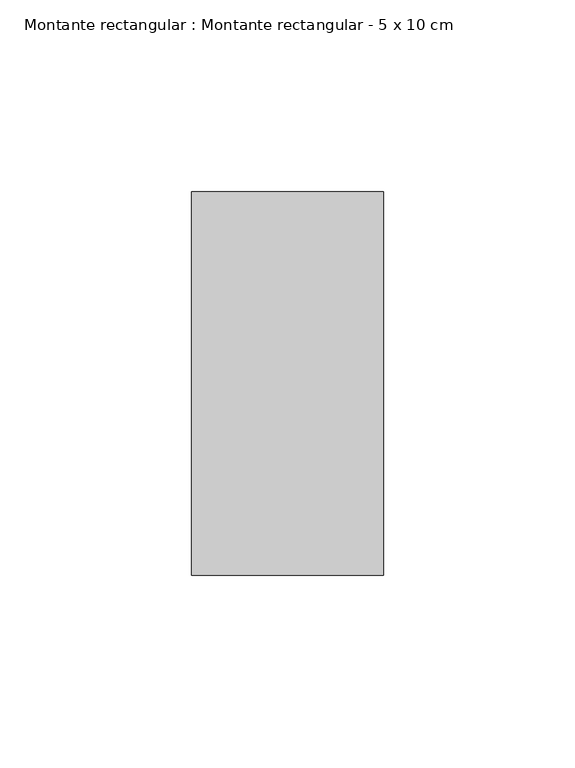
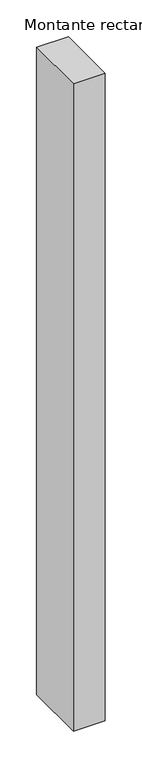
"""IFC4 building model written with IfcOpenShell, lengths in millimetres: member geometry, Montante rectangular : Montante rectangular - 5 x 10 cm."""

import ifcopenshell
import ifcopenshell.guid

model = None  # the IFC model being written
_history = None  # IfcOwnerHistory: only IFC2X3 demands one
_inside = {}  # id of a spatial element -> (the spatial element, [elements in it])
_under = {}  # id of a project, library or spatial element -> (it, [spatial elements below it])
_declared = {}  # id of a project -> (the project, [libraries it declares])
_typed = {}  # id of a type object -> (the type object, [elements of that type])
_made_of = {}  # id of a material, layer set ... -> (it, [elements and type objects made of it])


def new_model(schema):
    """Start an empty IFC model of exactly this schema.

    Asked for "IFC4X3", IfcOpenShell would pick the latest addendum, in which some entities
    have other attributes; the version numbers below select the first issue.
    IFC2X3 requires an IfcOwnerHistory on every rooted entity: one is made here for all.
    """
    global model, _history
    if schema == "IFC4X3":
        model = ifcopenshell.file(schema_version=(4, 3, 0, 0))
    else:
        model = ifcopenshell.file(schema=schema)
    _inside.clear()
    _under.clear()
    _declared.clear()
    _typed.clear()
    _made_of.clear()
    _history = None
    if model.schema == "IFC2X3":
        org = make("IfcOrganization", Name="unknown")
        user = make(
            "IfcPersonAndOrganization",
            ThePerson=make("IfcPerson", FamilyName="unknown"),
            TheOrganization=org,
        )
        app = make(
            "IfcApplication",
            ApplicationDeveloper=org,
            Version="unknown",
            ApplicationFullName="unknown",
            ApplicationIdentifier="unknown",
        )
        _history = make(
            "IfcOwnerHistory",
            OwningUser=user,
            OwningApplication=app,
            ChangeAction="ADDED",
            CreationDate=0,
        )
    return model


def make(cls, **values):
    """One entity of the class cls with the attributes given. An attribute that is None is left unset."""
    return model.create_entity(
        cls, **{name: value for name, value in values.items() if value is not None}
    )


def rooted(cls, **values):
    """An entity with a GlobalId (a new one), such as an element, a storey or a relation."""
    return make(cls, GlobalId=ifcopenshell.guid.new(), OwnerHistory=_history, **values)


def si_unit(unit_type, name, prefix=None):
    """IfcSIUnit, for example si_unit("LENGTHUNIT", "METRE", prefix="MILLI")."""
    return make("IfcSIUnit", UnitType=unit_type, Prefix=prefix, Name=name)


def assignment(units):
    """IfcUnitAssignment: the units of a project."""
    return None if units is None else make("IfcUnitAssignment", Units=units)


def point(xyz):
    """IfcCartesianPoint."""
    return None if xyz is None else make("IfcCartesianPoint", Coordinates=xyz)


def direction(xyz):
    """IfcDirection."""
    return None if xyz is None else make("IfcDirection", DirectionRatios=xyz)


def frame(location, z_axis=None, x_axis=None):
    """IfcAxis2Placement3D, a coordinate frame: its origin and axes. An axis left out is left unset."""
    return make(
        "IfcAxis2Placement3D",
        Location=point(location),
        Axis=direction(z_axis),
        RefDirection=direction(x_axis),
    )


def origin():
    """The frame at (0, 0, 0) with its axes left unset."""
    return frame((0.0, 0.0, 0.0))


def place(relative_to, where):
    """IfcLocalPlacement: puts the frame where relative to a parent placement (None: the world)."""
    return make(
        "IfcLocalPlacement", PlacementRelTo=relative_to, RelativePlacement=where
    )


def context(
    kind, dimensions, precision=None, world=None, true_north=None, identifier=None
):
    """IfcGeometricRepresentationContext, for example the 3D "Model" context."""
    return make(
        "IfcGeometricRepresentationContext",
        ContextIdentifier=identifier,
        ContextType=kind,
        CoordinateSpaceDimension=dimensions,
        Precision=precision,
        WorldCoordinateSystem=world,
        TrueNorth=true_north,
    )


def project(units=None, contexts=None):
    """IfcProject with its units and contexts."""
    return rooted(
        "IfcProject",
        Name="project",
        RepresentationContexts=contexts,
        UnitsInContext=assignment(units),
    )


def spatial(cls, under=None, at=None, **own):
    """A site, building, storey or space (cls), placed at a placement, below another one or the project."""
    s = rooted(cls, ObjectPlacement=at, **own)
    if under is not None:
        _under.setdefault(under.id(), (under, []))[1].append(s)
    return s


def polyline(points):
    """IfcPolyline through the points."""
    return make("IfcPolyline", Points=[point(p) for p in points])


def outline(outer, holes=None, kind="AREA"):
    """IfcArbitraryClosedProfileDef: a profile drawn as a closed curve; with holes, ...WithVoids."""
    if holes is None:
        return make("IfcArbitraryClosedProfileDef", ProfileType=kind, OuterCurve=outer)
    return make(
        "IfcArbitraryProfileDefWithVoids",
        ProfileType=kind,
        OuterCurve=outer,
        InnerCurves=holes,
    )


def extrude(swept, where, along, depth):
    """IfcExtrudedAreaSolid: the profile swept, set in the frame where, extruded along a direction by depth."""
    return make(
        "IfcExtrudedAreaSolid",
        SweptArea=swept,
        Position=where,
        ExtrudedDirection=direction(along),
        Depth=depth,
    )


def shape(context_of_items, identifier, shape_type, items):
    """IfcShapeRepresentation: the items that make up one representation, for example the "Body"."""
    return make(
        "IfcShapeRepresentation",
        ContextOfItems=context_of_items,
        RepresentationIdentifier=identifier,
        RepresentationType=shape_type,
        Items=items,
    )


def source(mapping_origin, context_of_items, identifier, shape_type, items):
    """IfcRepresentationMap: a shape defined once, which mapped items show again and again."""
    return make(
        "IfcRepresentationMap",
        MappingOrigin=mapping_origin,
        MappedRepresentation=shape(context_of_items, identifier, shape_type, items),
    )


def transform(
    local_origin,
    x_axis=None,
    y_axis=None,
    z_axis=None,
    scale=None,
    scale2=None,
    scale3=None,
    uniform=True,
):
    """IfcCartesianTransformationOperator3D, or its non-uniform kind. x_axis, y_axis, z_axis: its Axis1, 2, 3."""
    if uniform:
        return make(
            "IfcCartesianTransformationOperator3D",
            Axis1=direction(x_axis),
            Axis2=direction(y_axis),
            LocalOrigin=point(local_origin),
            Scale=scale,
            Axis3=direction(z_axis),
        )
    return make(
        "IfcCartesianTransformationOperator3DnonUniform",
        Axis1=direction(x_axis),
        Axis2=direction(y_axis),
        LocalOrigin=point(local_origin),
        Scale=scale,
        Axis3=direction(z_axis),
        Scale2=scale2,
        Scale3=scale3,
    )


def mapped(mapping_source, mapping_target):
    """IfcMappedItem: shows the shape of a source again, moved by a transform."""
    return make(
        "IfcMappedItem", MappingSource=mapping_source, MappingTarget=mapping_target
    )


def made_of(thing, what):
    """Note that an element or type object is made of a material, layer set ...; save() writes the relation."""
    if what is not None:
        _made_of.setdefault(what.id(), (what, []))[1].append(thing)
    return thing


def element(
    cls,
    number,
    at=None,
    inside=None,
    cuts=None,
    type_object=None,
    material=None,
    context=None,
    identifier="Body",
    shape_type=None,
    held_by="IfcProductDefinitionShape",
    body=None,
    shapes=None,
    **own,
):
    """One element of the class cls, such as IfcWall. Its Tag is "e" and its number.

    at: its placement. inside: the storey or other place that contains it. cuts: it is an
    opening in that element (IfcRelVoidsElement). A single representation is given by context,
    identifier, shape_type and body (its items); several are given by shapes. held_by: the class
    of the entity that holds the representations. save() writes the other relations.
    """
    e = rooted(cls, Tag="e%d" % number, ObjectPlacement=at, **own)
    if body is not None:
        shapes = [shape(context, identifier, shape_type, body)]
    if shapes is not None:
        e.Representation = make(held_by, Representations=shapes)
    if inside is not None:
        _inside.setdefault(inside.id(), (inside, []))[1].append(e)
    if cuts is not None:
        rooted(
            "IfcRelVoidsElement", RelatingBuildingElement=cuts, RelatedOpeningElement=e
        )
    if type_object is not None:
        _typed.setdefault(type_object.id(), (type_object, []))[1].append(e)
    return made_of(e, material)


def aggregate(whole, parts):
    """IfcRelAggregates: a whole, such as a stair, and the parts it consists of."""
    return rooted("IfcRelAggregates", RelatingObject=whole, RelatedObjects=parts)


def save(model, path):
    """Write the relations noted so far, then the file.

    IfcRelAggregates (storeys below a building ...), IfcRelContainedInSpatialStructure (elements
    in a storey), IfcRelDefinesByType, IfcRelAssociatesMaterial and IfcRelDeclares: one each for
    every whole, place, type object, material and project.
    """
    for whole, parts in _under.values():
        aggregate(whole, parts)
    for where, things in _inside.values():
        rooted(
            "IfcRelContainedInSpatialStructure",
            RelatedElements=things,
            RelatingStructure=where,
        )
    for kind, things in _typed.values():
        rooted("IfcRelDefinesByType", RelatedObjects=things, RelatingType=kind)
    for what, things in _made_of.values():
        rooted("IfcRelAssociatesMaterial", RelatedObjects=things, RelatingMaterial=what)
    for by, libraries in _declared.values():
        rooted("IfcRelDeclares", RelatingContext=by, RelatedDefinitions=libraries)
    model.write(path)


def montante_rectangular_montante_rectangular_5_x_10_cm_25222a55(model_context):
    return source(origin(), model_context, "Body", "SweptSolid", [
        extrude(outline(polyline([(25.0, 50.0), (25.0, -50.0), (-25.0, -50.0), (-25.0, 50.0), (25.0, 50.0)])), frame((0.0, 0.0, -1075.0), z_axis=(0.0, 0.0, 1.0), x_axis=(1.0, 0.0, 0.0)), (0.0, 0.0, 1.0), 1075.0),
    ])


if __name__ == "__main__":
    model = new_model("IFC4")
    model_context = context("Model", 3, world=origin())
    ifc_project = project(units=[si_unit("LENGTHUNIT", "METRE", prefix="MILLI")], contexts=[model_context])
    site = spatial("IfcSite", under=ifc_project)
    building = spatial("IfcBuilding", under=site)
    placement = place(None, origin())
    montante_rectangular_montante_rectangular_5_x_10_cm_shape = montante_rectangular_montante_rectangular_5_x_10_cm_25222a55(model_context)
    element("IfcMember", 1, ObjectType="Montante rectangular : Montante rectangular - 5 x 10 cm", at=placement, inside=building, context=model_context, shape_type="MappedRepresentation", body=[
        mapped(montante_rectangular_montante_rectangular_5_x_10_cm_shape, transform((0.0, 0.0, 0.0), x_axis=(1.0, 0.0, 0.0), y_axis=(0.0, 1.0, 0.0), z_axis=(0.0, 0.0, 1.0))),
    ])
    save(model, "model.ifc")
